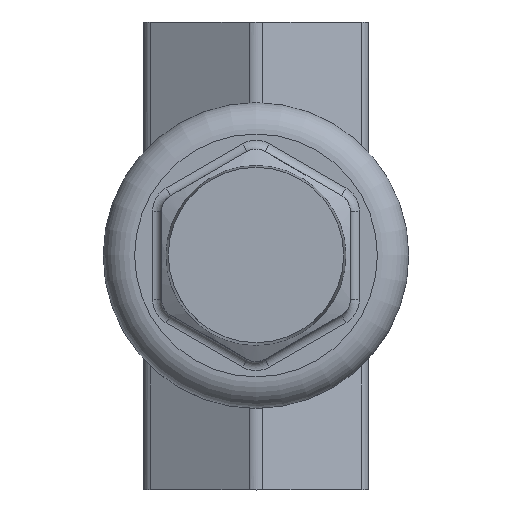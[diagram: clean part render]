
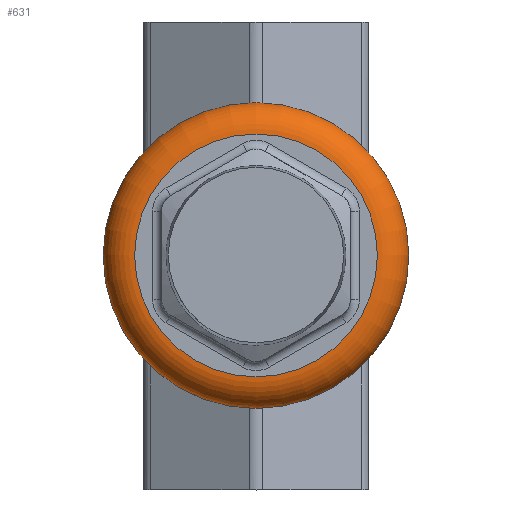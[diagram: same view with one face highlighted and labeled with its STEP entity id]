
A CAD part, top view. The second image highlights one B-rep face of the part: STEP entity #631.
In plain terms, the highlighted toroidal (fillet/blend) face has major radius 13.5 mm and minor radius 3.5 mm.
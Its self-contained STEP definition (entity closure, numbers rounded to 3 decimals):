
#631=ADVANCED_FACE('',(#4588,#4590),#4592,.T.);
#4588=FACE_OUTER_BOUND('',#4589,.T.);
#4589=EDGE_LOOP('',(#9692));
#4590=FACE_OUTER_BOUND('',#4591,.T.);
#4591=EDGE_LOOP('',(#9693));
#4592=TOROIDAL_SURFACE('',#4593,13.5,3.5);
#4593=AXIS2_PLACEMENT_3D('',#4594,#4595,#4596);
#4594=CARTESIAN_POINT('',(0.,0.,32.));
#4595=DIRECTION('',(0.,0.,-1.));
#4596=DIRECTION('',(0.,1.,0.));
#9692=ORIENTED_EDGE('',*,*,#11524,.F.);
#9693=ORIENTED_EDGE('',*,*,#11656,.T.);
#11524=EDGE_CURVE('',#14302,#14302,#14303,.T.);
#11656=EDGE_CURVE('',#14514,#14514,#14515,.T.);
#14302=VERTEX_POINT('',#20819);
#14303=CIRCLE('',#20820,17.);
#14514=VERTEX_POINT('',#21299);
#14515=CIRCLE('',#21300,13.5);
#20819=CARTESIAN_POINT('',(0.,17.,32.));
#20820=AXIS2_PLACEMENT_3D('',#20821,#20822,#20823);
#20821=CARTESIAN_POINT('',(0.,0.,32.));
#20822=DIRECTION('',(0.,0.,-1.));
#20823=DIRECTION('',(0.,1.,0.));
#21299=CARTESIAN_POINT('',(0.,13.5,35.5));
#21300=AXIS2_PLACEMENT_3D('',#21301,#21302,#21303);
#21301=CARTESIAN_POINT('',(0.,0.,35.5));
#21302=DIRECTION('',(0.,0.,-1.));
#21303=DIRECTION('',(0.,1.,0.));
